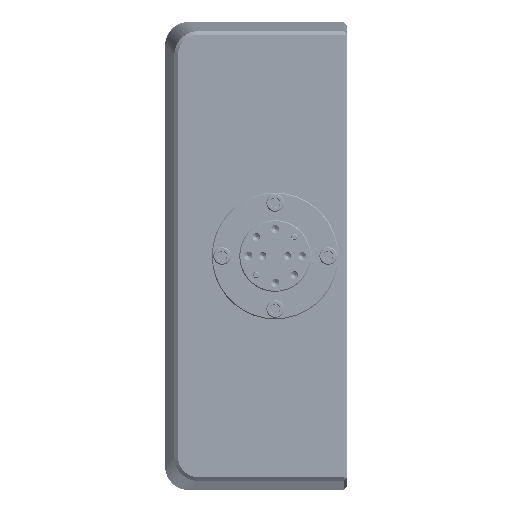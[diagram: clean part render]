
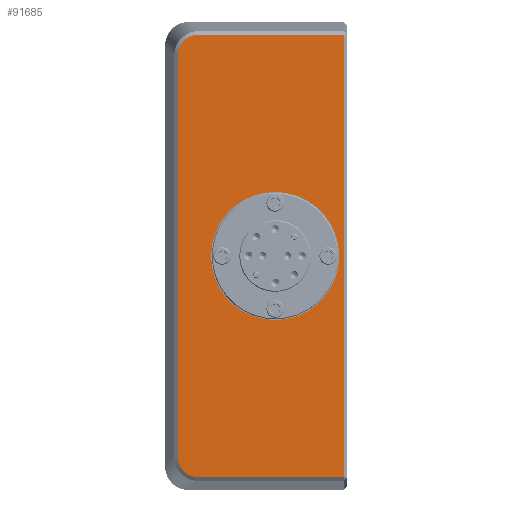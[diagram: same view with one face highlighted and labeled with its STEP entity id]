
A CAD part, left-side view. The second image highlights one B-rep face of the part: STEP entity #91685.
In plain terms, the highlighted planar face has unit normal (-1, 0, 0).
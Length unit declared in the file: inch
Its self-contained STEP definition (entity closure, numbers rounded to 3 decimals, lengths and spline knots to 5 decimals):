
#398 = CARTESIAN_POINT ( 'NONE',  ( -2.75, -0.8752, -2.31232 ) ) ;
#1133 = CARTESIAN_POINT ( 'NONE',  ( -2.75, -0.70801, -2.2321 ) ) ;
#5341 = ORIENTED_EDGE ( 'NONE', *, *, #60785, .F. ) ;
#6051 = CARTESIAN_POINT ( 'NONE',  ( -2.75, -0.708, 2.2321 ) ) ;
#6839 = VERTEX_POINT ( 'NONE', #398 ) ;
#8121 = DIRECTION ( 'NONE',  ( 0., 0., 1. ) ) ;
#11079 = VERTEX_POINT ( 'NONE', #33607 ) ;
#12308 = LINE ( 'NONE', #51804, #89115 ) ;
#15025 = EDGE_CURVE ( 'NONE', #127387, #11079, #128290, .T. ) ;
#16397 = CIRCLE ( 'NONE', #96925, 0.67 ) ;
#16932 = ORIENTED_EDGE ( 'NONE', *, *, #31401, .T. ) ;
#19663 = CARTESIAN_POINT ( 'NONE',  ( -2.75, -1.48136, 2.31232 ) ) ;
#21365 = DIRECTION ( 'NONE',  ( 0., 0., 1. ) ) ;
#28992 = CARTESIAN_POINT ( 'NONE',  ( -2.75, -0.67172, -2.15839 ) ) ;
#29877 = CARTESIAN_POINT ( 'NONE',  ( -2.75, -0.84766, -2.31233 ) ) ;
#30395 = CARTESIAN_POINT ( 'NONE',  ( -2.75, -0.66628, -2.1034 ) ) ;
#31401 = EDGE_CURVE ( 'NONE', #138237, #127387, #142788, .T. ) ;
#32819 = VECTOR ( 'NONE', #60963, 39.37008 ) ;
#33607 = CARTESIAN_POINT ( 'NONE',  ( -2.75, -0.66628, 2.1034 ) ) ;
#34493 = B_SPLINE_CURVE_WITH_KNOTS ( 'NONE', 3,
 ( #99135, #56803, #28992, #83822, #1133, #44157, #138664, #55920, #29877, #110842 ),
 .UNSPECIFIED., .F., .F.,
 ( 4, 2, 2, 2, 4 ),
 ( 0., 0.25, 0.5, 0.75, 1. ),
 .UNSPECIFIED. ) ;
#35567 = ORIENTED_EDGE ( 'NONE', *, *, #15025, .T. ) ;
#35597 = CARTESIAN_POINT ( 'NONE',  ( -2.75, -0.67171, 2.15839 ) ) ;
#39030 = LINE ( 'NONE', #135288, #119075 ) ;
#40357 = ORIENTED_EDGE ( 'NONE', *, *, #120512, .T. ) ;
#44157 = CARTESIAN_POINT ( 'NONE',  ( -2.75, -0.7465, -2.27061 ) ) ;
#46608 = AXIS2_PLACEMENT_3D ( 'NONE', #63550, #173174, #21365 ) ;
#50801 = CARTESIAN_POINT ( 'NONE',  ( -2.75, -0.84772, 2.31233 ) ) ;
#51804 = CARTESIAN_POINT ( 'NONE',  ( -2.75, -0.66628, 0. ) ) ;
#53387 = DIRECTION ( 'NONE',  ( 0., 0., 1. ) ) ;
#55911 = CARTESIAN_POINT ( 'NONE',  ( -2.75, -1.48136, 0. ) ) ;
#55920 = CARTESIAN_POINT ( 'NONE',  ( -2.75, -0.82021, -2.30689 ) ) ;
#56803 = CARTESIAN_POINT ( 'NONE',  ( -2.75, -0.66628, -2.13089 ) ) ;
#60785 = EDGE_CURVE ( 'NONE', #158992, #112613, #16397, .T. ) ;
#60823 = CARTESIAN_POINT ( 'NONE',  ( -2.75, -0.66628, 2.13095 ) ) ;
#60963 = DIRECTION ( 'NONE',  ( 0., 1., 0. ) ) ;
#62329 = VERTEX_POINT ( 'NONE', #30395 ) ;
#63550 = CARTESIAN_POINT ( 'NONE',  ( -2.75, -1.68136, 0. ) ) ;
#64358 = CARTESIAN_POINT ( 'NONE',  ( -2.75, -0.8752, 2.31232 ) ) ;
#65357 = DIRECTION ( 'NONE',  ( 0., 0., -1. ) ) ;
#68370 = ORIENTED_EDGE ( 'NONE', *, *, #129525, .T. ) ;
#71228 = PLANE ( 'NONE',  #120508 ) ;
#72098 = FACE_BOUND ( 'NONE', #135176, .T. ) ;
#74652 = CARTESIAN_POINT ( 'NONE',  ( -2.75, -1.68136, 0. ) ) ;
#83822 = CARTESIAN_POINT ( 'NONE',  ( -2.75, -0.69251, -2.20886 ) ) ;
#89115 = VECTOR ( 'NONE', #65357, 39.37008 ) ;
#91685 = ADVANCED_FACE ( 'NONE', ( #153869, #72098 ), #71228, .F. ) ;
#92282 = CARTESIAN_POINT ( 'NONE',  ( -2.75, -0.82022, 2.30689 ) ) ;
#92499 = DIRECTION ( 'NONE',  ( 0., -1., 0. ) ) ;
#93413 = CARTESIAN_POINT ( 'NONE',  ( -2.75, -0.8752, 2.31232 ) ) ;
#96925 = AXIS2_PLACEMENT_3D ( 'NONE', #74652, #117845, #8121 ) ;
#99089 = CARTESIAN_POINT ( 'NONE',  ( -2.75, -2.40136, -2.31232 ) ) ;
#99135 = CARTESIAN_POINT ( 'NONE',  ( -2.75, -0.66628, -2.1034 ) ) ;
#105837 = CARTESIAN_POINT ( 'NONE',  ( -2.75, -0.76974, 2.28609 ) ) ;
#106726 = ORIENTED_EDGE ( 'NONE', *, *, #131380, .F. ) ;
#107126 = CIRCLE ( 'NONE', #46608, 0.67 ) ;
#110842 = CARTESIAN_POINT ( 'NONE',  ( -2.75, -0.8752, -2.31232 ) ) ;
#112613 = VERTEX_POINT ( 'NONE', #119405 ) ;
#114151 = CARTESIAN_POINT ( 'NONE',  ( -2.75, -2.40136, 2.31232 ) ) ;
#117845 = DIRECTION ( 'NONE',  ( -1., 0., 0. ) ) ;
#119075 = VECTOR ( 'NONE', #53387, 39.37008 ) ;
#119405 = CARTESIAN_POINT ( 'NONE',  ( -2.75, -1.68136, -0.67 ) ) ;
#120508 = AXIS2_PLACEMENT_3D ( 'NONE', #55911, #127868, #152981 ) ;
#120512 = EDGE_CURVE ( 'NONE', #158758, #138237, #39030, .T. ) ;
#122182 = LINE ( 'NONE', #160811, #156475 ) ;
#123934 = EDGE_CURVE ( 'NONE', #6839, #158758, #122182, .T. ) ;
#127387 = VERTEX_POINT ( 'NONE', #93413 ) ;
#127868 = DIRECTION ( 'NONE',  ( 1., 0., 0. ) ) ;
#127991 = ORIENTED_EDGE ( 'NONE', *, *, #123934, .T. ) ;
#128290 = B_SPLINE_CURVE_WITH_KNOTS ( 'NONE', 3,
 ( #64358, #50801, #92282, #105837, #129209, #6051, #158805, #35597, #60823, #157008 ),
 .UNSPECIFIED., .F., .F.,
 ( 4, 2, 2, 2, 4 ),
 ( 0., 0.25, 0.5, 0.75, 1. ),
 .UNSPECIFIED. ) ;
#129209 = CARTESIAN_POINT ( 'NONE',  ( -2.75, -0.74651, 2.2706 ) ) ;
#129525 = EDGE_CURVE ( 'NONE', #11079, #62329, #12308, .T. ) ;
#131380 = EDGE_CURVE ( 'NONE', #112613, #158992, #107126, .T. ) ;
#135176 = EDGE_LOOP ( 'NONE', ( #5341, #106726 ) ) ;
#135288 = CARTESIAN_POINT ( 'NONE',  ( -2.75, -2.40136, 0. ) ) ;
#138237 = VERTEX_POINT ( 'NONE', #114151 ) ;
#138664 = CARTESIAN_POINT ( 'NONE',  ( -2.75, -0.76974, -2.28609 ) ) ;
#138894 = EDGE_CURVE ( 'NONE', #62329, #6839, #34493, .T. ) ;
#142788 = LINE ( 'NONE', #19663, #32819 ) ;
#152981 = DIRECTION ( 'NONE',  ( 0., 0., -1. ) ) ;
#153869 = FACE_OUTER_BOUND ( 'NONE', #177427, .T. ) ;
#156475 = VECTOR ( 'NONE', #92499, 39.37008 ) ;
#157008 = CARTESIAN_POINT ( 'NONE',  ( -2.75, -0.66628, 2.1034 ) ) ;
#157615 = CARTESIAN_POINT ( 'NONE',  ( -2.75, -1.68136, 0.67 ) ) ;
#157899 = ORIENTED_EDGE ( 'NONE', *, *, #138894, .T. ) ;
#158758 = VERTEX_POINT ( 'NONE', #99089 ) ;
#158805 = CARTESIAN_POINT ( 'NONE',  ( -2.75, -0.69252, 2.20886 ) ) ;
#158992 = VERTEX_POINT ( 'NONE', #157615 ) ;
#160811 = CARTESIAN_POINT ( 'NONE',  ( -2.75, -1.48136, -2.31232 ) ) ;
#173174 = DIRECTION ( 'NONE',  ( -1., 0., 0. ) ) ;
#177427 = EDGE_LOOP ( 'NONE', ( #157899, #127991, #40357, #16932, #35567, #68370 ) ) ;
